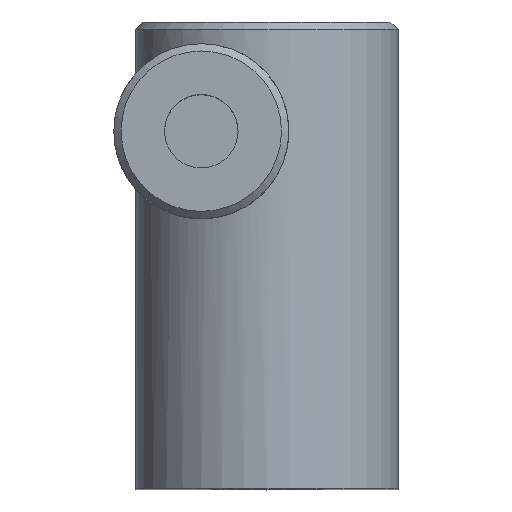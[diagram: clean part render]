
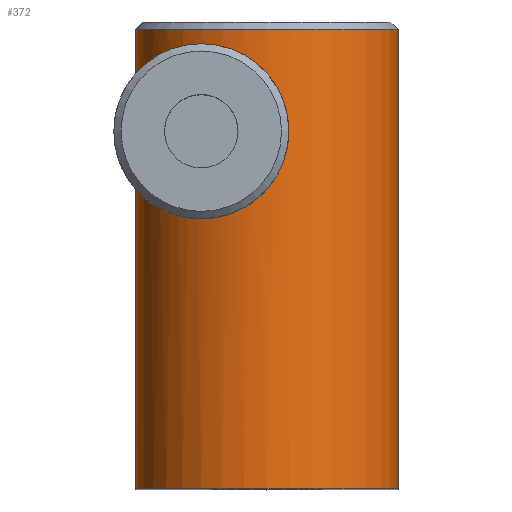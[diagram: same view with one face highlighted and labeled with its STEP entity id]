
A CAD part, top view. The second image highlights one B-rep face of the part: STEP entity #372.
In plain terms, the highlighted cylindrical face has radius 9 mm (diameter 18 mm), a partial arc.
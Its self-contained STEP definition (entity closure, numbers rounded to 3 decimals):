
#24=B_SPLINE_CURVE_WITH_KNOTS('',3,(#643,#644,#645,#646,#647,#648,#649,
#650,#651,#652,#653,#654,#655,#656,#657,#658,#659,#660,#661,#662,#663,#664,
#665,#666,#667,#668,#669,#670,#671,#672,#673,#674,#675,#676,#677,#678,#679,
#680),.UNSPECIFIED.,.F.,.F.,(4,2,2,2,2,2,2,2,2,2,2,2,2,2,2,2,2,2,4),(0.,
0.2,0.399,0.799,0.985,
1.171,1.343,1.515,1.689,1.864,
2.038,2.213,2.385,2.557,2.743,
2.929,3.328,3.528,3.728),
 .UNSPECIFIED.);
#64=FACE_OUTER_BOUND('',#88,.T.);
#88=EDGE_LOOP('',(#319,#320,#321,#322,#323,#324));
#105=LINE('',#614,#131);
#106=LINE('',#618,#132);
#120=LINE('',#700,#146);
#131=VECTOR('',#491,10.);
#132=VECTOR('',#494,10.);
#146=VECTOR('',#548,10.);
#164=CIRCLE('',#427,9.);
#166=CIRCLE('',#432,9.);
#184=VERTEX_POINT('',#611);
#185=VERTEX_POINT('',#613);
#186=VERTEX_POINT('',#615);
#187=VERTEX_POINT('',#617);
#195=VERTEX_POINT('',#687);
#197=VERTEX_POINT('',#698);
#219=EDGE_CURVE('',#184,#185,#105,.T.);
#221=EDGE_CURVE('',#186,#187,#106,.T.);
#234=EDGE_CURVE('',#186,#185,#24,.T.);
#240=EDGE_CURVE('',#187,#195,#164,.T.);
#244=EDGE_CURVE('',#184,#197,#166,.T.);
#245=EDGE_CURVE('',#197,#195,#120,.T.);
#319=ORIENTED_EDGE('',*,*,#240,.F.);
#320=ORIENTED_EDGE('',*,*,#221,.F.);
#321=ORIENTED_EDGE('',*,*,#234,.T.);
#322=ORIENTED_EDGE('',*,*,#219,.F.);
#323=ORIENTED_EDGE('',*,*,#244,.T.);
#324=ORIENTED_EDGE('',*,*,#245,.T.);
#354=CYLINDRICAL_SURFACE('',#431,9.);
#372=ADVANCED_FACE('',(#64),#354,.T.);
#427=AXIS2_PLACEMENT_3D('',#691,#534,#535);
#431=AXIS2_PLACEMENT_3D('',#697,#544,#545);
#432=AXIS2_PLACEMENT_3D('',#699,#546,#547);
#491=DIRECTION('',(0.,1.,0.));
#494=DIRECTION('',(0.,1.,0.));
#534=DIRECTION('center_axis',(0.,1.,0.));
#535=DIRECTION('ref_axis',(-1.,0.,0.));
#544=DIRECTION('center_axis',(0.,1.,0.));
#545=DIRECTION('ref_axis',(-1.,0.,0.));
#546=DIRECTION('center_axis',(0.,1.,0.));
#547=DIRECTION('ref_axis',(-1.,0.,0.));
#548=DIRECTION('',(0.,1.,0.));
#611=CARTESIAN_POINT('',(-49.,0.,-9.));
#613=CARTESIAN_POINT('',(-49.,20.531,-9.));
#614=CARTESIAN_POINT('',(-49.,0.,-9.));
#615=CARTESIAN_POINT('',(-49.,28.469,-9.));
#617=CARTESIAN_POINT('',(-49.,31.5,-9.));
#618=CARTESIAN_POINT('',(-49.,0.,-9.));
#643=CARTESIAN_POINT('Ctrl Pts',(-49.,28.469,-9.));
#644=CARTESIAN_POINT('Ctrl Pts',(-49.,28.469,-8.335));
#645=CARTESIAN_POINT('Ctrl Pts',(-48.926,28.556,-7.673));
#646=CARTESIAN_POINT('Ctrl Pts',(-48.639,28.849,-6.391));
#647=CARTESIAN_POINT('Ctrl Pts',(-48.425,29.051,-5.769));
#648=CARTESIAN_POINT('Ctrl Pts',(-47.592,29.689,-3.994));
#649=CARTESIAN_POINT('Ctrl Pts',(-46.774,30.147,-2.931));
#650=CARTESIAN_POINT('Ctrl Pts',(-45.296,30.466,-1.698));
#651=CARTESIAN_POINT('Ctrl Pts',(-44.736,30.524,-1.318));
#652=CARTESIAN_POINT('Ctrl Pts',(-43.558,30.455,-0.707));
#653=CARTESIAN_POINT('Ctrl Pts',(-42.94,30.325,-0.474));
#654=CARTESIAN_POINT('Ctrl Pts',(-41.859,29.916,-0.178));
#655=CARTESIAN_POINT('Ctrl Pts',(-41.316,29.623,-0.083));
#656=CARTESIAN_POINT('Ctrl Pts',(-40.345,28.872,0.007));
#657=CARTESIAN_POINT('Ctrl Pts',(-39.917,28.415,0.006));
#658=CARTESIAN_POINT('Ctrl Pts',(-39.254,27.469,-0.025));
#659=CARTESIAN_POINT('Ctrl Pts',(-38.967,26.904,-0.057));
#660=CARTESIAN_POINT('Ctrl Pts',(-38.59,25.71,-0.109));
#661=CARTESIAN_POINT('Ctrl Pts',(-38.5,25.082,-0.126));
#662=CARTESIAN_POINT('Ctrl Pts',(-38.5,23.918,-0.126));
#663=CARTESIAN_POINT('Ctrl Pts',(-38.59,23.29,-0.109));
#664=CARTESIAN_POINT('Ctrl Pts',(-38.967,22.096,-0.057));
#665=CARTESIAN_POINT('Ctrl Pts',(-39.254,21.531,-0.025));
#666=CARTESIAN_POINT('Ctrl Pts',(-39.917,20.585,0.006));
#667=CARTESIAN_POINT('Ctrl Pts',(-40.345,20.128,0.007));
#668=CARTESIAN_POINT('Ctrl Pts',(-41.316,19.377,-0.083));
#669=CARTESIAN_POINT('Ctrl Pts',(-41.859,19.084,-0.178));
#670=CARTESIAN_POINT('Ctrl Pts',(-42.94,18.675,-0.474));
#671=CARTESIAN_POINT('Ctrl Pts',(-43.558,18.545,-0.707));
#672=CARTESIAN_POINT('Ctrl Pts',(-44.736,18.476,-1.318));
#673=CARTESIAN_POINT('Ctrl Pts',(-45.296,18.534,-1.698));
#674=CARTESIAN_POINT('Ctrl Pts',(-46.774,18.853,-2.931));
#675=CARTESIAN_POINT('Ctrl Pts',(-47.592,19.311,-3.994));
#676=CARTESIAN_POINT('Ctrl Pts',(-48.425,19.949,-5.769));
#677=CARTESIAN_POINT('Ctrl Pts',(-48.639,20.151,-6.391));
#678=CARTESIAN_POINT('Ctrl Pts',(-48.926,20.444,-7.673));
#679=CARTESIAN_POINT('Ctrl Pts',(-49.,20.531,-8.335));
#680=CARTESIAN_POINT('Ctrl Pts',(-49.,20.531,-9.));
#687=CARTESIAN_POINT('',(-31.,31.5,-9.));
#691=CARTESIAN_POINT('Origin',(-40.,31.5,-9.));
#697=CARTESIAN_POINT('Origin',(-40.,0.,-9.));
#698=CARTESIAN_POINT('',(-31.,0.,-9.));
#699=CARTESIAN_POINT('Origin',(-40.,0.,-9.));
#700=CARTESIAN_POINT('',(-31.,0.,-9.));
